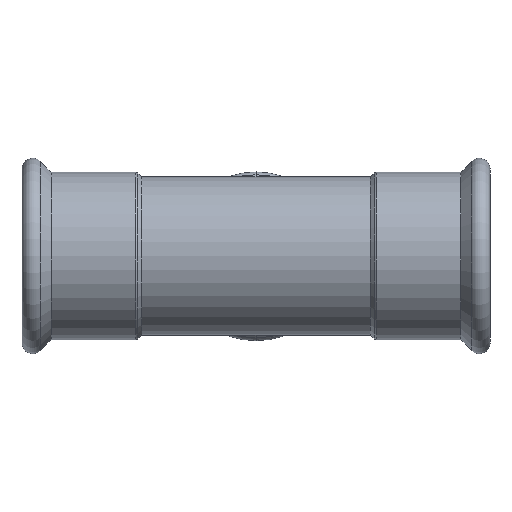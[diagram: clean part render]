
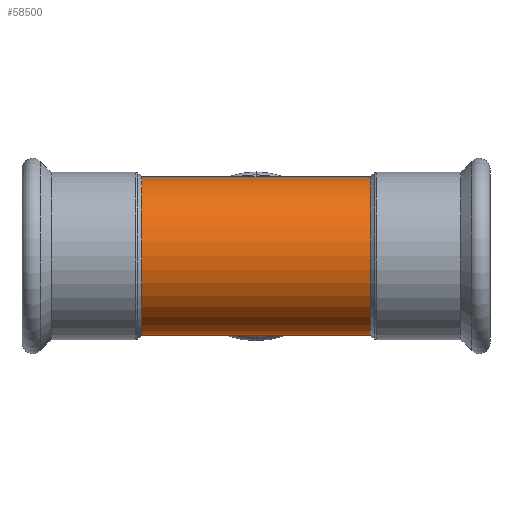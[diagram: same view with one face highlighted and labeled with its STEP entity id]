
A CAD part, top view. The second image highlights one B-rep face of the part: STEP entity #58500.
In plain terms, the highlighted cylindrical face has radius 44.45 mm (diameter 88.9 mm), a partial arc.
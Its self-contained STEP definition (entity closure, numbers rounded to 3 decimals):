
#6240=CARTESIAN_POINT('',(-53.,0.,64.));
#6250=DIRECTION('',(0.,0.,1.));
#6260=DIRECTION('',(0.,1.,0.));
#6270=AXIS2_PLACEMENT_3D('',#6240,#6250,#6260);
#6280=CYLINDRICAL_SURFACE('',#6270,44.45);
#25990=CARTESIAN_POINT('',(-53.,-44.45,64.));
#26000=DIRECTION('',(0.,0.,1.));
#26010=VECTOR('',#26000,1.);
#26020=LINE('',#25990,#26010);
#26030=CARTESIAN_POINT('',(-53.,-44.45,-64.));
#26040=VERTEX_POINT('',#26030);
#26050=CARTESIAN_POINT('',(-53.,-44.45,64.));
#26060=VERTEX_POINT('',#26050);
#26070=EDGE_CURVE('',#26040,#26060,#26020,.T.);
#26090=CARTESIAN_POINT('',(-53.,0.,64.));
#26100=DIRECTION('',(0.,0.,1.));
#26110=DIRECTION('',(0.,-1.,0.));
#26120=AXIS2_PLACEMENT_3D('',#26090,#26100,#26110);
#26130=CIRCLE('',#26120,44.45);
#26140=CARTESIAN_POINT('',(-53.,44.45,64.));
#26150=VERTEX_POINT('',#26140);
#26180=CARTESIAN_POINT('',(-53.,44.45,64.));
#26190=DIRECTION('',(0.,0.,1.));
#26200=VECTOR('',#26190,1.);
#26210=LINE('',#26180,#26200);
#26220=CARTESIAN_POINT('',(-53.,44.45,-64.));
#26230=VERTEX_POINT('',#26220);
#26240=EDGE_CURVE('',#26230,#26150,#26210,.T.);
#26260=CARTESIAN_POINT('',(-53.,0.,-64.));
#26270=DIRECTION('',(0.,0.,1.));
#26280=DIRECTION('',(0.,1.,0.));
#26290=AXIS2_PLACEMENT_3D('',#26260,#26270,#26280);
#26300=CIRCLE('',#26290,44.45);
#57650=EDGE_CURVE('',#26150,#26060,#26130,.T.);
#57880=EDGE_CURVE('',#26230,#26040,#26300,.T.);
#58440=ORIENTED_EDGE('',*,*,#57650,.F.);
#58450=ORIENTED_EDGE('',*,*,#26070,.T.);
#58460=ORIENTED_EDGE('',*,*,#57880,.T.);
#58470=ORIENTED_EDGE('',*,*,#26240,.F.);
#58480=EDGE_LOOP('',(#58470,#58460,#58450,#58440));
#58490=FACE_OUTER_BOUND('',#58480,.T.);
#58500=ADVANCED_FACE('',(#58490),#6280,.T.);
